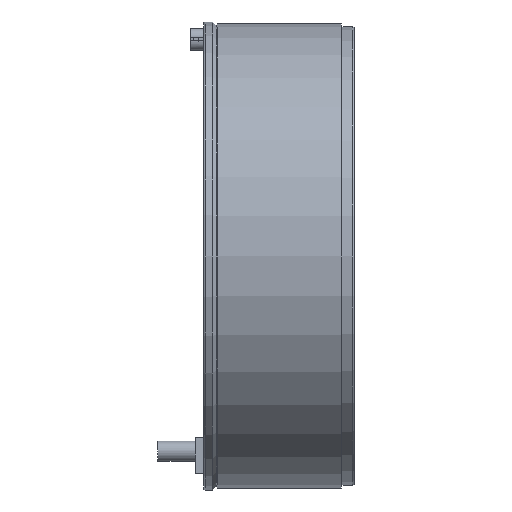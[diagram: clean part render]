
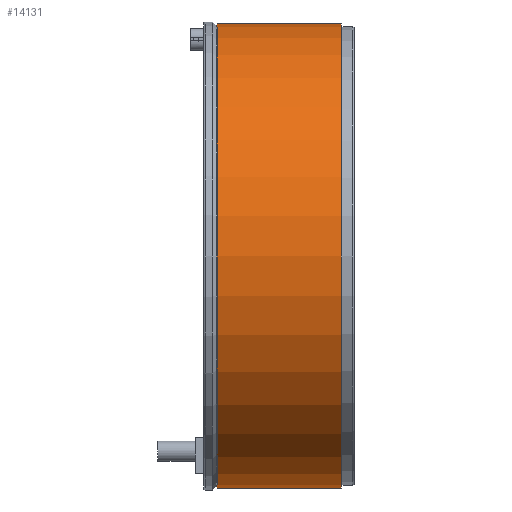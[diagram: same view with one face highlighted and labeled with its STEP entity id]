
A CAD part, left-side view. The second image highlights one B-rep face of the part: STEP entity #14131.
In plain terms, the highlighted cylindrical face has radius 247 mm (diameter 494 mm), a partial arc.
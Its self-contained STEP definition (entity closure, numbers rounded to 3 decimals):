
#373 = DIRECTION ( 'NONE',  ( 0., 0., -1. ) ) ;
#778 = ORIENTED_EDGE ( 'NONE', *, *, #9936, .F. ) ;
#820 = CARTESIAN_POINT ( 'NONE',  ( 0., 14., -247. ) ) ;
#854 = AXIS2_PLACEMENT_3D ( 'NONE', #10933, #2882, #11948 ) ;
#1196 = FACE_OUTER_BOUND ( 'NONE', #7761, .T. ) ;
#1532 = CARTESIAN_POINT ( 'NONE',  ( 0., 0., 0. ) ) ;
#1886 = DIRECTION ( 'NONE',  ( 0., 0., -1. ) ) ;
#2787 = LINE ( 'NONE', #2794, #4051 ) ;
#2794 = CARTESIAN_POINT ( 'NONE',  ( 0., 0., -247. ) ) ;
#2882 = DIRECTION ( 'NONE',  ( 0., -1., 0. ) ) ;
#3067 = AXIS2_PLACEMENT_3D ( 'NONE', #1532, #10770, #373 ) ;
#3210 = ORIENTED_EDGE ( 'NONE', *, *, #5182, .T. ) ;
#3270 = LINE ( 'NONE', #11188, #12871 ) ;
#3816 = CARTESIAN_POINT ( 'NONE',  ( 0., 146., 247. ) ) ;
#4051 = VECTOR ( 'NONE', #6122, 1000. ) ;
#4585 = CARTESIAN_POINT ( 'NONE',  ( 0., 146., -247. ) ) ;
#4762 = EDGE_CURVE ( 'NONE', #10118, #7581, #6266, .T. ) ;
#5182 = EDGE_CURVE ( 'NONE', #11176, #12132, #7875, .T. ) ;
#5420 = ORIENTED_EDGE ( 'NONE', *, *, #4762, .F. ) ;
#6122 = DIRECTION ( 'NONE',  ( 0., -1., 0. ) ) ;
#6266 = CIRCLE ( 'NONE', #12824, 247. ) ;
#6528 = DIRECTION ( 'NONE',  ( 0., -1., 0. ) ) ;
#7581 = VERTEX_POINT ( 'NONE', #820 ) ;
#7761 = EDGE_LOOP ( 'NONE', ( #778, #3210, #11591, #5420 ) ) ;
#7875 = CIRCLE ( 'NONE', #854, 247. ) ;
#8307 = CARTESIAN_POINT ( 'NONE',  ( 0., 14., 247. ) ) ;
#9063 = DIRECTION ( 'NONE',  ( 0., -1., 0. ) ) ;
#9936 = EDGE_CURVE ( 'NONE', #11176, #10118, #3270, .T. ) ;
#10118 = VERTEX_POINT ( 'NONE', #8307 ) ;
#10770 = DIRECTION ( 'NONE',  ( 0., -1., 0. ) ) ;
#10933 = CARTESIAN_POINT ( 'NONE',  ( 0., 146., 0. ) ) ;
#11176 = VERTEX_POINT ( 'NONE', #3816 ) ;
#11188 = CARTESIAN_POINT ( 'NONE',  ( 0., 0., 247. ) ) ;
#11591 = ORIENTED_EDGE ( 'NONE', *, *, #13728, .T. ) ;
#11948 = DIRECTION ( 'NONE',  ( 0., 0., -1. ) ) ;
#12132 = VERTEX_POINT ( 'NONE', #4585 ) ;
#12824 = AXIS2_PLACEMENT_3D ( 'NONE', #14367, #6528, #1886 ) ;
#12871 = VECTOR ( 'NONE', #9063, 1000. ) ;
#12934 = CYLINDRICAL_SURFACE ( 'NONE', #3067, 247. ) ;
#13728 = EDGE_CURVE ( 'NONE', #12132, #7581, #2787, .T. ) ;
#14131 = ADVANCED_FACE ( 'NONE', ( #1196 ), #12934, .T. ) ;
#14367 = CARTESIAN_POINT ( 'NONE',  ( 0., 14., 0. ) ) ;
